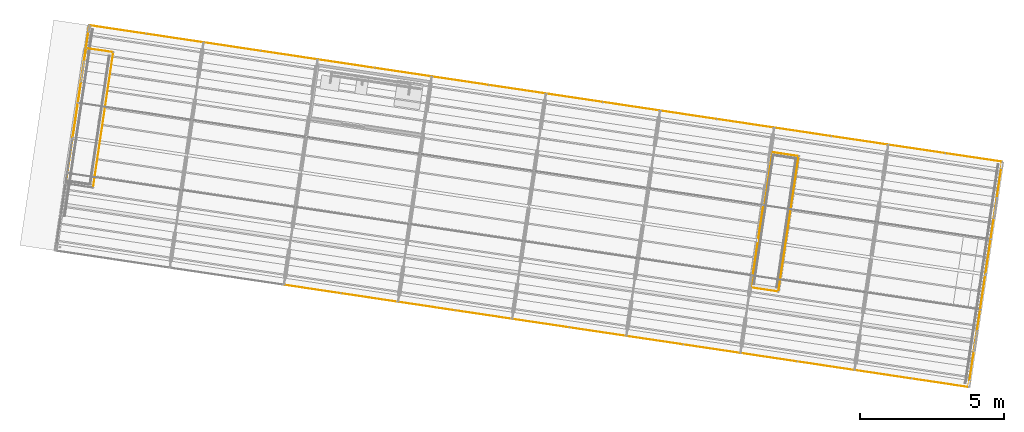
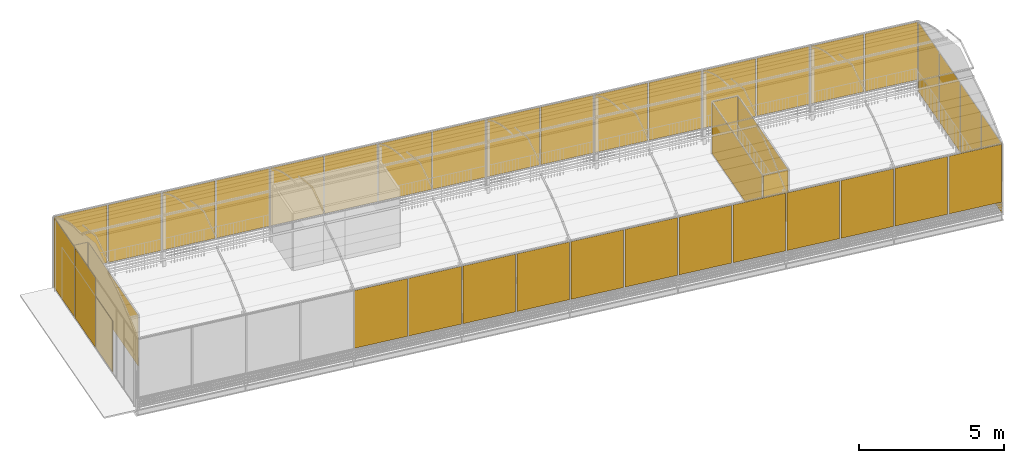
# One storey, part 29 of 34: 39 windows, 2 doors.
"""IFC4 building model written with IfcOpenShell, lengths in metres."""

from ifc_helpers import new_model, si_unit, direction, frame, origin_with_axes, place, context, subcontext, project, spatial, polyline, outline, extrude, material, element, save


model = new_model("IFC4")

# Units and contexts
model_context = context("Model", 3, precision=1e-05, world=origin_with_axes(), true_north=direction((0.0, 1.0)))
body_context = subcontext(model_context, "Body", "Model", "MODEL_VIEW")
ifc_project = project(units=[si_unit("VOLUMEUNIT", "CUBIC_METRE"), si_unit("LENGTHUNIT", "METRE"), si_unit("AREAUNIT", "SQUARE_METRE")], contexts=[model_context])

# Site, building, storey
site_placement = place(None, origin_with_axes())
site = spatial("IfcSite", under=ifc_project, at=site_placement, Name="Lares · Rua das Mercês · artigo 4771")
building_placement = place(site_placement, frame((12.0, 10.2, 13.9), z_axis=(0.0, 0.0, 1.0), x_axis=(0.989015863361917, -0.147809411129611, 0.0)))
building = spatial("IfcBuilding", under=site, at=building_placement, Name="Casa Sobreposta")
storey_placement = place(building_placement, frame((0.0, 0.0, 3.24), z_axis=(0.0, 0.0, 1.0), x_axis=(1.0, 0.0, 0.0)))
storey = spatial("IfcBuildingStorey", under=building, at=storey_placement, Name="01 · Jardim de inverno", Elevation=17.14)

# Windows
ifc_material = material(Name="Vidro / Normalglas", Category="glass")
window_1_placement = place(storey_placement, frame((0.0, 0.0, 0.525), z_axis=(0.0, 0.0, 1.0), x_axis=(1.0, 0.0, 0.0)))
element("IfcWindow", 1, at=window_1_placement, inside=storey, material=ifc_material, Name="Estufa sul 5", OverallHeight=2.43, OverallWidth=1.95, PartitioningType="SINGLE_PANEL", PredefinedType="WINDOW", context=body_context, shape_type="SweptSolid", body=[
    extrude(outline(polyline([(9.975, -1.496), (9.975, -1.504), (8.025, -1.504), (8.025, -1.496), (9.975, -1.496)])), origin_with_axes(), (0.0, 0.0, 1.0), 2.43),
])
window_2_placement = place(storey_placement, frame((0.0, 0.0, 0.525), z_axis=(0.0, 0.0, 1.0), x_axis=(1.0, 0.0, 0.0)))
element("IfcWindow", 2, at=window_2_placement, inside=storey, material=ifc_material, Name="Estufa sul 6", OverallHeight=2.43, OverallWidth=1.95, PartitioningType="SINGLE_PANEL", PredefinedType="WINDOW", context=body_context, shape_type="SweptSolid", body=[
    extrude(outline(polyline([(11.975, -1.496), (11.975, -1.504), (10.025, -1.504), (10.025, -1.496), (11.975, -1.496)])), origin_with_axes(), (0.0, 0.0, 1.0), 2.43),
])
window_3_placement = place(storey_placement, frame((0.0, 0.0, 0.525), z_axis=(0.0, 0.0, 1.0), x_axis=(1.0, 0.0, 0.0)))
element("IfcWindow", 3, at=window_3_placement, inside=storey, material=ifc_material, Name="Estufa sul 7", OverallHeight=2.43, OverallWidth=1.95, PartitioningType="SINGLE_PANEL", PredefinedType="WINDOW", context=body_context, shape_type="SweptSolid", body=[
    extrude(outline(polyline([(13.975, -1.496), (13.975, -1.504), (12.025, -1.504), (12.025, -1.496), (13.975, -1.496)])), origin_with_axes(), (0.0, 0.0, 1.0), 2.43),
])
window_4_placement = place(storey_placement, frame((0.0, 0.0, 0.525), z_axis=(0.0, 0.0, 1.0), x_axis=(1.0, 0.0, 0.0)))
element("IfcWindow", 4, at=window_4_placement, inside=storey, material=ifc_material, Name="Estufa sul 8", OverallHeight=2.43, OverallWidth=1.95, PartitioningType="SINGLE_PANEL", PredefinedType="WINDOW", context=body_context, shape_type="SweptSolid", body=[
    extrude(outline(polyline([(15.975, -1.496), (15.975, -1.504), (14.025, -1.504), (14.025, -1.496), (15.975, -1.496)])), origin_with_axes(), (0.0, 0.0, 1.0), 2.43),
])
window_5_placement = place(storey_placement, frame((0.0, 0.0, 0.525), z_axis=(0.0, 0.0, 1.0), x_axis=(1.0, 0.0, 0.0)))
element("IfcWindow", 5, at=window_5_placement, inside=storey, material=ifc_material, Name="Estufa sul 9", OverallHeight=2.43, OverallWidth=1.95, PartitioningType="SINGLE_PANEL", PredefinedType="WINDOW", context=body_context, shape_type="SweptSolid", body=[
    extrude(outline(polyline([(17.975, -1.496), (17.975, -1.504), (16.025, -1.504), (16.025, -1.496), (17.975, -1.496)])), origin_with_axes(), (0.0, 0.0, 1.0), 2.43),
])
window_6_placement = place(storey_placement, frame((0.0, 0.0, 0.525), z_axis=(0.0, 0.0, 1.0), x_axis=(1.0, 0.0, 0.0)))
element("IfcWindow", 6, at=window_6_placement, inside=storey, material=ifc_material, Name="Estufa sul 10", OverallHeight=2.43, OverallWidth=1.95, PartitioningType="SINGLE_PANEL", PredefinedType="WINDOW", context=body_context, shape_type="SweptSolid", body=[
    extrude(outline(polyline([(19.975, -1.496), (19.975, -1.504), (18.025, -1.504), (18.025, -1.496), (19.975, -1.496)])), origin_with_axes(), (0.0, 0.0, 1.0), 2.43),
])
window_7_placement = place(storey_placement, frame((0.0, 0.0, 0.525), z_axis=(0.0, 0.0, 1.0), x_axis=(1.0, 0.0, 0.0)))
element("IfcWindow", 7, at=window_7_placement, inside=storey, material=ifc_material, Name="Estufa sul 11", OverallHeight=2.43, OverallWidth=1.95, PartitioningType="SINGLE_PANEL", PredefinedType="WINDOW", context=body_context, shape_type="SweptSolid", body=[
    extrude(outline(polyline([(21.975, -1.496), (21.975, -1.504), (20.025, -1.504), (20.025, -1.496), (21.975, -1.496)])), origin_with_axes(), (0.0, 0.0, 1.0), 2.43),
])
window_8_placement = place(storey_placement, frame((0.0, 0.0, 0.525), z_axis=(0.0, 0.0, 1.0), x_axis=(1.0, 0.0, 0.0)))
element("IfcWindow", 8, at=window_8_placement, inside=storey, material=ifc_material, Name="Estufa sul 12", OverallHeight=2.43, OverallWidth=1.95, PartitioningType="SINGLE_PANEL", PredefinedType="WINDOW", context=body_context, shape_type="SweptSolid", body=[
    extrude(outline(polyline([(23.975, -1.496), (23.975, -1.504), (22.025, -1.504), (22.025, -1.496), (23.975, -1.496)])), origin_with_axes(), (0.0, 0.0, 1.0), 2.43),
])
window_9_placement = place(storey_placement, frame((0.0, 0.0, 0.525), z_axis=(0.0, 0.0, 1.0), x_axis=(1.0, 0.0, 0.0)))
element("IfcWindow", 9, at=window_9_placement, inside=storey, material=ifc_material, Name="Estufa sul 13", OverallHeight=2.43, OverallWidth=1.95, PartitioningType="SINGLE_PANEL", PredefinedType="WINDOW", context=body_context, shape_type="SweptSolid", body=[
    extrude(outline(polyline([(25.975, -1.496), (25.975, -1.504), (24.025, -1.504), (24.025, -1.496), (25.975, -1.496)])), origin_with_axes(), (0.0, 0.0, 1.0), 2.43),
])
window_10_placement = place(storey_placement, frame((0.0, 0.0, 0.525), z_axis=(0.0, 0.0, 1.0), x_axis=(1.0, 0.0, 0.0)))
element("IfcWindow", 10, at=window_10_placement, inside=storey, material=ifc_material, Name="Estufa sul 14", OverallHeight=2.43, OverallWidth=1.95, PartitioningType="SINGLE_PANEL", PredefinedType="WINDOW", context=body_context, shape_type="SweptSolid", body=[
    extrude(outline(polyline([(27.975, -1.496), (27.975, -1.504), (26.025, -1.504), (26.025, -1.496), (27.975, -1.496)])), origin_with_axes(), (0.0, 0.0, 1.0), 2.43),
])
window_11_placement = place(storey_placement, frame((0.0, 0.0, 0.525), z_axis=(0.0, 0.0, 1.0), x_axis=(1.0, 0.0, 0.0)))
element("IfcWindow", 11, at=window_11_placement, inside=storey, material=ifc_material, Name="Estufa sul 15", OverallHeight=2.43, OverallWidth=1.95, PartitioningType="SINGLE_PANEL", PredefinedType="WINDOW", context=body_context, shape_type="SweptSolid", body=[
    extrude(outline(polyline([(29.975, -1.496), (29.975, -1.504), (28.025, -1.504), (28.025, -1.496), (29.975, -1.496)])), origin_with_axes(), (0.0, 0.0, 1.0), 2.43),
])
window_12_placement = place(storey_placement, frame((0.0, 0.0, 0.525), z_axis=(0.0, 0.0, 1.0), x_axis=(1.0, 0.0, 0.0)))
element("IfcWindow", 12, at=window_12_placement, inside=storey, material=ifc_material, Name="Estufa sul 16", OverallHeight=2.43, OverallWidth=1.95, PartitioningType="SINGLE_PANEL", PredefinedType="WINDOW", context=body_context, shape_type="SweptSolid", body=[
    extrude(outline(polyline([(31.975, -1.496), (31.975, -1.504), (30.025, -1.504), (30.025, -1.496), (31.975, -1.496)])), origin_with_axes(), (0.0, 0.0, 1.0), 2.43),
])
window_13_placement = place(storey_placement, frame((0.0, 0.0, 0.525), z_axis=(0.0, 0.0, 1.0), x_axis=(1.0, 0.0, 0.0)))
element("IfcWindow", 13, at=window_13_placement, inside=storey, material=ifc_material, Name="Estufa norte 1", OverallHeight=2.43, OverallWidth=1.95, PartitioningType="SINGLE_PANEL", PredefinedType="WINDOW", context=body_context, shape_type="SweptSolid", body=[
    extrude(outline(polyline([(1.975, 6.404), (1.975, 6.396), (0.025, 6.396), (0.025, 6.404), (1.975, 6.404)])), origin_with_axes(), (0.0, 0.0, 1.0), 2.43),
])
window_14_placement = place(storey_placement, frame((0.0, 0.0, 0.525), z_axis=(0.0, 0.0, 1.0), x_axis=(1.0, 0.0, 0.0)))
element("IfcWindow", 14, at=window_14_placement, inside=storey, material=ifc_material, Name="Estufa norte 2", OverallHeight=2.43, OverallWidth=1.95, PartitioningType="SINGLE_PANEL", PredefinedType="WINDOW", context=body_context, shape_type="SweptSolid", body=[
    extrude(outline(polyline([(3.975, 6.404), (3.975, 6.396), (2.025, 6.396), (2.025, 6.404), (3.975, 6.404)])), origin_with_axes(), (0.0, 0.0, 1.0), 2.43),
])
window_15_placement = place(storey_placement, frame((0.0, 0.0, 0.525), z_axis=(0.0, 0.0, 1.0), x_axis=(1.0, 0.0, 0.0)))
element("IfcWindow", 15, at=window_15_placement, inside=storey, material=ifc_material, Name="Estufa norte 3", OverallHeight=2.43, OverallWidth=1.95, PartitioningType="SINGLE_PANEL", PredefinedType="WINDOW", context=body_context, shape_type="SweptSolid", body=[
    extrude(outline(polyline([(5.975, 6.404), (5.975, 6.396), (4.025, 6.396), (4.025, 6.404), (5.975, 6.404)])), origin_with_axes(), (0.0, 0.0, 1.0), 2.43),
])
window_16_placement = place(storey_placement, frame((0.0, 0.0, 0.525), z_axis=(0.0, 0.0, 1.0), x_axis=(1.0, 0.0, 0.0)))
element("IfcWindow", 16, at=window_16_placement, inside=storey, material=ifc_material, Name="Estufa norte 4", OverallHeight=2.43, OverallWidth=1.95, PartitioningType="SINGLE_PANEL", PredefinedType="WINDOW", context=body_context, shape_type="SweptSolid", body=[
    extrude(outline(polyline([(7.975, 6.404), (7.975, 6.396), (6.025, 6.396), (6.025, 6.404), (7.975, 6.404)])), origin_with_axes(), (0.0, 0.0, 1.0), 2.43),
])
window_17_placement = place(storey_placement, frame((0.0, 0.0, 0.525), z_axis=(0.0, 0.0, 1.0), x_axis=(1.0, 0.0, 0.0)))
element("IfcWindow", 17, at=window_17_placement, inside=storey, material=ifc_material, Name="Estufa norte 5", OverallHeight=2.43, OverallWidth=1.95, PartitioningType="SINGLE_PANEL", PredefinedType="WINDOW", context=body_context, shape_type="SweptSolid", body=[
    extrude(outline(polyline([(9.975, 6.404), (9.975, 6.396), (8.025, 6.396), (8.025, 6.404), (9.975, 6.404)])), origin_with_axes(), (0.0, 0.0, 1.0), 2.43),
])
window_18_placement = place(storey_placement, frame((0.0, 0.0, 0.525), z_axis=(0.0, 0.0, 1.0), x_axis=(1.0, 0.0, 0.0)))
element("IfcWindow", 18, at=window_18_placement, inside=storey, material=ifc_material, Name="Estufa norte 6", OverallHeight=2.43, OverallWidth=1.95, PartitioningType="SINGLE_PANEL", PredefinedType="WINDOW", context=body_context, shape_type="SweptSolid", body=[
    extrude(outline(polyline([(11.975, 6.404), (11.975, 6.396), (10.025, 6.396), (10.025, 6.404), (11.975, 6.404)])), origin_with_axes(), (0.0, 0.0, 1.0), 2.43),
])
window_19_placement = place(storey_placement, frame((0.0, 0.0, 0.525), z_axis=(0.0, 0.0, 1.0), x_axis=(1.0, 0.0, 0.0)))
element("IfcWindow", 19, at=window_19_placement, inside=storey, material=ifc_material, Name="Estufa norte 7", OverallHeight=2.43, OverallWidth=1.95, PartitioningType="SINGLE_PANEL", PredefinedType="WINDOW", context=body_context, shape_type="SweptSolid", body=[
    extrude(outline(polyline([(13.975, 6.404), (13.975, 6.396), (12.025, 6.396), (12.025, 6.404), (13.975, 6.404)])), origin_with_axes(), (0.0, 0.0, 1.0), 2.43),
])
window_20_placement = place(storey_placement, frame((0.0, 0.0, 0.525), z_axis=(0.0, 0.0, 1.0), x_axis=(1.0, 0.0, 0.0)))
element("IfcWindow", 20, at=window_20_placement, inside=storey, material=ifc_material, Name="Estufa norte 8", OverallHeight=2.43, OverallWidth=1.95, PartitioningType="SINGLE_PANEL", PredefinedType="WINDOW", context=body_context, shape_type="SweptSolid", body=[
    extrude(outline(polyline([(15.975, 6.404), (15.975, 6.396), (14.025, 6.396), (14.025, 6.404), (15.975, 6.404)])), origin_with_axes(), (0.0, 0.0, 1.0), 2.43),
])
window_21_placement = place(storey_placement, frame((0.0, 0.0, 0.525), z_axis=(0.0, 0.0, 1.0), x_axis=(1.0, 0.0, 0.0)))
element("IfcWindow", 21, at=window_21_placement, inside=storey, material=ifc_material, Name="Estufa norte 9", OverallHeight=2.43, OverallWidth=1.95, PartitioningType="SINGLE_PANEL", PredefinedType="WINDOW", context=body_context, shape_type="SweptSolid", body=[
    extrude(outline(polyline([(17.975, 6.404), (17.975, 6.396), (16.025, 6.396), (16.025, 6.404), (17.975, 6.404)])), origin_with_axes(), (0.0, 0.0, 1.0), 2.43),
])
window_22_placement = place(storey_placement, frame((0.0, 0.0, 0.525), z_axis=(0.0, 0.0, 1.0), x_axis=(1.0, 0.0, 0.0)))
element("IfcWindow", 22, at=window_22_placement, inside=storey, material=ifc_material, Name="Estufa norte 10", OverallHeight=2.43, OverallWidth=1.95, PartitioningType="SINGLE_PANEL", PredefinedType="WINDOW", context=body_context, shape_type="SweptSolid", body=[
    extrude(outline(polyline([(19.975, 6.404), (19.975, 6.396), (18.025, 6.396), (18.025, 6.404), (19.975, 6.404)])), origin_with_axes(), (0.0, 0.0, 1.0), 2.43),
])
window_23_placement = place(storey_placement, frame((0.0, 0.0, 0.525), z_axis=(0.0, 0.0, 1.0), x_axis=(1.0, 0.0, 0.0)))
element("IfcWindow", 23, at=window_23_placement, inside=storey, material=ifc_material, Name="Estufa norte 11", OverallHeight=2.43, OverallWidth=1.95, PartitioningType="SINGLE_PANEL", PredefinedType="WINDOW", context=body_context, shape_type="SweptSolid", body=[
    extrude(outline(polyline([(21.975, 6.404), (21.975, 6.396), (20.025, 6.396), (20.025, 6.404), (21.975, 6.404)])), origin_with_axes(), (0.0, 0.0, 1.0), 2.43),
])
window_24_placement = place(storey_placement, frame((0.0, 0.0, 0.525), z_axis=(0.0, 0.0, 1.0), x_axis=(1.0, 0.0, 0.0)))
element("IfcWindow", 24, at=window_24_placement, inside=storey, material=ifc_material, Name="Estufa norte 12", OverallHeight=2.43, OverallWidth=1.95, PartitioningType="SINGLE_PANEL", PredefinedType="WINDOW", context=body_context, shape_type="SweptSolid", body=[
    extrude(outline(polyline([(23.975, 6.404), (23.975, 6.396), (22.025, 6.396), (22.025, 6.404), (23.975, 6.404)])), origin_with_axes(), (0.0, 0.0, 1.0), 2.43),
])
window_25_placement = place(storey_placement, frame((0.0, 0.0, 0.525), z_axis=(0.0, 0.0, 1.0), x_axis=(1.0, 0.0, 0.0)))
element("IfcWindow", 25, at=window_25_placement, inside=storey, material=ifc_material, Name="Estufa norte 13", OverallHeight=2.43, OverallWidth=1.95, PartitioningType="SINGLE_PANEL", PredefinedType="WINDOW", context=body_context, shape_type="SweptSolid", body=[
    extrude(outline(polyline([(25.975, 6.404), (25.975, 6.396), (24.025, 6.396), (24.025, 6.404), (25.975, 6.404)])), origin_with_axes(), (0.0, 0.0, 1.0), 2.43),
])
window_26_placement = place(storey_placement, frame((0.0, 0.0, 0.525), z_axis=(0.0, 0.0, 1.0), x_axis=(1.0, 0.0, 0.0)))
element("IfcWindow", 26, at=window_26_placement, inside=storey, material=ifc_material, Name="Estufa norte 14", OverallHeight=2.43, OverallWidth=1.95, PartitioningType="SINGLE_PANEL", PredefinedType="WINDOW", context=body_context, shape_type="SweptSolid", body=[
    extrude(outline(polyline([(27.975, 6.404), (27.975, 6.396), (26.025, 6.396), (26.025, 6.404), (27.975, 6.404)])), origin_with_axes(), (0.0, 0.0, 1.0), 2.43),
])
window_27_placement = place(storey_placement, frame((0.0, 0.0, 0.525), z_axis=(0.0, 0.0, 1.0), x_axis=(1.0, 0.0, 0.0)))
element("IfcWindow", 27, at=window_27_placement, inside=storey, material=ifc_material, Name="Estufa norte 15", OverallHeight=2.43, OverallWidth=1.95, PartitioningType="SINGLE_PANEL", PredefinedType="WINDOW", context=body_context, shape_type="SweptSolid", body=[
    extrude(outline(polyline([(29.975, 6.404), (29.975, 6.396), (28.025, 6.396), (28.025, 6.404), (29.975, 6.404)])), origin_with_axes(), (0.0, 0.0, 1.0), 2.43),
])
window_28_placement = place(storey_placement, frame((0.0, 0.0, 0.525), z_axis=(0.0, 0.0, 1.0), x_axis=(1.0, 0.0, 0.0)))
element("IfcWindow", 28, at=window_28_placement, inside=storey, material=ifc_material, Name="Estufa norte 16", OverallHeight=2.43, OverallWidth=1.95, PartitioningType="SINGLE_PANEL", PredefinedType="WINDOW", context=body_context, shape_type="SweptSolid", body=[
    extrude(outline(polyline([(31.975, 6.404), (31.975, 6.396), (30.025, 6.396), (30.025, 6.404), (31.975, 6.404)])), origin_with_axes(), (0.0, 0.0, 1.0), 2.43),
])
window_29_placement = place(storey_placement, frame((0.0, 0.0, 0.0249999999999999), z_axis=(0.0, 0.0, 1.0), x_axis=(1.0, 0.0, 0.0)))
element("IfcWindow", 29, at=window_29_placement, inside=storey, material=ifc_material, Name="Estufa poente 3", OverallHeight=2.93, OverallWidth=1.925, PartitioningType="SINGLE_PANEL", PredefinedType="WINDOW", context=body_context, shape_type="SweptSolid", body=[
    extrude(outline(polyline([(-0.004, 4.4), (0.004, 4.4), (0.004, 2.475), (-0.004, 2.475), (-0.004, 4.4)])), origin_with_axes(), (0.0, 0.0, 1.0), 2.93),
])
window_30_placement = place(storey_placement, frame((0.0, 0.0, 0.0249999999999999), z_axis=(0.0, 0.0, 1.0), x_axis=(1.0, 0.0, 0.0)))
element("IfcWindow", 30, at=window_30_placement, inside=storey, material=ifc_material, Name="Estufa poente 4", OverallHeight=2.93, OverallWidth=1.925, PartitioningType="SINGLE_PANEL", PredefinedType="WINDOW", context=body_context, shape_type="SweptSolid", body=[
    extrude(outline(polyline([(-0.004, 6.375), (0.004, 6.375), (0.004, 4.45), (-0.004, 4.45), (-0.004, 6.375)])), origin_with_axes(), (0.0, 0.0, 1.0), 2.93),
])
window_31_placement = place(storey_placement, frame((0.0, 0.0, 0.0249999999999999), z_axis=(0.0, 0.0, 1.0), x_axis=(1.0, 0.0, 0.0)))
element("IfcWindow", 31, at=window_31_placement, inside=storey, material=ifc_material, Name="Estufa nascente 1", OverallHeight=2.93, OverallWidth=1.925, PartitioningType="SINGLE_PANEL", PredefinedType="WINDOW", context=body_context, shape_type="SweptSolid", body=[
    extrude(outline(polyline([(31.996, 0.45), (32.004, 0.45), (32.004, -1.475), (31.996, -1.475), (31.996, 0.45)])), origin_with_axes(), (0.0, 0.0, 1.0), 2.93),
])
window_32_placement = place(storey_placement, frame((0.0, 0.0, 0.0249999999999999), z_axis=(0.0, 0.0, 1.0), x_axis=(1.0, 0.0, 0.0)))
element("IfcWindow", 32, at=window_32_placement, inside=storey, material=ifc_material, Name="Estufa nascente 2", OverallHeight=2.93, OverallWidth=1.925, PartitioningType="SINGLE_PANEL", PredefinedType="WINDOW", context=body_context, shape_type="SweptSolid", body=[
    extrude(outline(polyline([(31.996, 2.425), (32.004, 2.425), (32.004, 0.5), (31.996, 0.5), (31.996, 2.425)])), origin_with_axes(), (0.0, 0.0, 1.0), 2.93),
])
window_33_placement = place(storey_placement, frame((0.0, 0.0, 0.0249999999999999), z_axis=(0.0, 0.0, 1.0), x_axis=(1.0, 0.0, 0.0)))
element("IfcWindow", 33, at=window_33_placement, inside=storey, material=ifc_material, Name="Estufa nascente 3", OverallHeight=2.93, OverallWidth=1.925, PartitioningType="SINGLE_PANEL", PredefinedType="WINDOW", context=body_context, shape_type="SweptSolid", body=[
    extrude(outline(polyline([(31.996, 4.4), (32.004, 4.4), (32.004, 2.475), (31.996, 2.475), (31.996, 4.4)])), origin_with_axes(), (0.0, 0.0, 1.0), 2.93),
])
window_34_placement = place(storey_placement, frame((0.0, 0.0, 0.0249999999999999), z_axis=(0.0, 0.0, 1.0), x_axis=(1.0, 0.0, 0.0)))
element("IfcWindow", 34, at=window_34_placement, inside=storey, material=ifc_material, Name="Estufa nascente 4", OverallHeight=2.93, OverallWidth=1.925, PartitioningType="SINGLE_PANEL", PredefinedType="WINDOW", context=body_context, shape_type="SweptSolid", body=[
    extrude(outline(polyline([(31.996, 6.375), (32.004, 6.375), (32.004, 4.45), (31.996, 4.45), (31.996, 6.375)])), origin_with_axes(), (0.0, 0.0, 1.0), 2.93),
])
window_35_placement = place(storey_placement, frame((0.0, 0.0, 0.0249999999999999), z_axis=(0.0, 0.0, 1.0), x_axis=(1.0, 0.0, 0.0)))
element("IfcWindow", 35, at=window_35_placement, inside=storey, material=ifc_material, Name="Caixa térmica 1 · west", OverallHeight=2.15, OverallWidth=4.7, PartitioningType="SINGLE_PANEL", PredefinedType="WINDOW", context=body_context, shape_type="SweptSolid", body=[
    extrude(outline(polyline([(0.006, 5.575), (0.014, 5.575), (0.014, 0.875), (0.006, 0.875), (0.006, 5.575)])), origin_with_axes(), (0.0, 0.0, 1.0), 2.15),
])
window_36_placement = place(storey_placement, frame((0.0, 0.0, 0.0249999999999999), z_axis=(0.0, 0.0, 1.0), x_axis=(1.0, 0.0, 0.0)))
element("IfcWindow", 36, at=window_36_placement, inside=storey, material=ifc_material, Name="Caixa térmica 1 · east", OverallHeight=2.15, OverallWidth=4.7, PartitioningType="SINGLE_PANEL", PredefinedType="WINDOW", context=body_context, shape_type="SweptSolid", body=[
    extrude(outline(polyline([(0.956, 5.575), (0.964, 5.575), (0.964, 0.875), (0.956, 0.875), (0.956, 5.575)])), origin_with_axes(), (0.0, 0.0, 1.0), 2.15),
])

# Door
door_1_placement = place(storey_placement, frame((0.0, 0.0, 0.0249999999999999), z_axis=(0.0, 0.0, 1.0), x_axis=(1.0, 0.0, 0.0)))
element("IfcDoor", 37, at=door_1_placement, inside=storey, material=ifc_material, Name="Caixa térmica 1 · north", OperationType="SLIDING_TO_LEFT", OverallHeight=2.15, OverallWidth=0.9, PredefinedType="DOOR", context=body_context, shape_type="SweptSolid", body=[
    extrude(outline(polyline([(0.935, 5.604), (0.935, 5.596), (0.035, 5.596), (0.035, 5.604), (0.935, 5.604)])), origin_with_axes(), (0.0, 0.0, 1.0), 2.15),
])

# Windows
window_37_placement = place(storey_placement, frame((0.0, 0.0, 0.0249999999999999), z_axis=(0.0, 0.0, 1.0), x_axis=(1.0, 0.0, 0.0)))
element("IfcWindow", 38, at=window_37_placement, inside=storey, material=ifc_material, Name="Caixa térmica 2 · west", OverallHeight=2.15, OverallWidth=4.7, PartitioningType="SINGLE_PANEL", PredefinedType="WINDOW", context=body_context, shape_type="SweptSolid", body=[
    extrude(outline(polyline([(24.026, 5.525), (24.034, 5.525), (24.034, 0.825), (24.026, 0.825), (24.026, 5.525)])), origin_with_axes(), (0.0, 0.0, 1.0), 2.15),
])
window_38_placement = place(storey_placement, frame((0.0, 0.0, 0.0249999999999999), z_axis=(0.0, 0.0, 1.0), x_axis=(1.0, 0.0, 0.0)))
element("IfcWindow", 39, at=window_38_placement, inside=storey, material=ifc_material, Name="Caixa térmica 2 · east", OverallHeight=2.15, OverallWidth=4.7, PartitioningType="SINGLE_PANEL", PredefinedType="WINDOW", context=body_context, shape_type="SweptSolid", body=[
    extrude(outline(polyline([(24.986, 5.525), (24.994, 5.525), (24.994, 0.825), (24.986, 0.825), (24.986, 5.525)])), origin_with_axes(), (0.0, 0.0, 1.0), 2.15),
])

# Door
door_2_placement = place(storey_placement, frame((0.0, 0.0, 0.0249999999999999), z_axis=(0.0, 0.0, 1.0), x_axis=(1.0, 0.0, 0.0)))
element("IfcDoor", 40, at=door_2_placement, inside=storey, material=ifc_material, Name="Caixa térmica 2 · south", OperationType="SLIDING_TO_LEFT", OverallHeight=2.15, OverallWidth=0.910000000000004, PredefinedType="DOOR", context=body_context, shape_type="SweptSolid", body=[
    extrude(outline(polyline([(24.965, 0.804), (24.965, 0.796), (24.055, 0.796), (24.055, 0.804), (24.965, 0.804)])), origin_with_axes(), (0.0, 0.0, 1.0), 2.15),
])

# Window
window_39_placement = place(storey_placement, frame((0.0, 0.0, 0.0249999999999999), z_axis=(0.0, 0.0, 1.0), x_axis=(1.0, 0.0, 0.0)))
element("IfcWindow", 41, at=window_39_placement, inside=storey, material=ifc_material, Name="Caixa térmica 2 · north", OverallHeight=2.15, OverallWidth=0.910000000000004, PartitioningType="SINGLE_PANEL", PredefinedType="WINDOW", context=body_context, shape_type="SweptSolid", body=[
    extrude(outline(polyline([(24.965, 5.554), (24.965, 5.546), (24.055, 5.546), (24.055, 5.554), (24.965, 5.554)])), origin_with_axes(), (0.0, 0.0, 1.0), 2.15),
])

save(model, "model.ifc")
